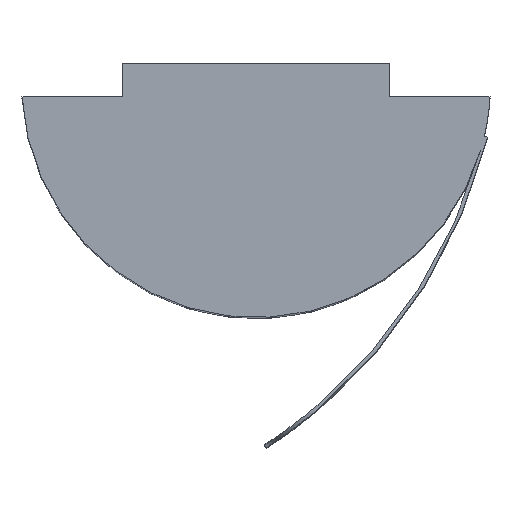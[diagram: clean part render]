
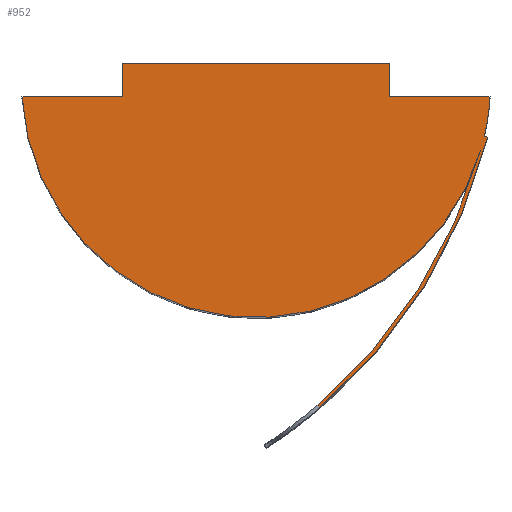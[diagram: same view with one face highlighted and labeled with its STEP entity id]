
A CAD part, top view. The second image highlights one B-rep face of the part: STEP entity #952.
In plain terms, the highlighted planar face has unit normal (0, 0, 1).
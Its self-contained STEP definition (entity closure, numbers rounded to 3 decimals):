
#178=CARTESIAN_POINT('',(-4.0,0.975,20.0));
#179=VERTEX_POINT('',#178);
#180=CARTESIAN_POINT('',(4.0,0.975,20.0));
#181=VERTEX_POINT('',#180);
#182=CARTESIAN_POINT('',(-4.0,0.975,20.0));
#183=DIRECTION('',(1.0,0.0,0.0));
#184=VECTOR('',#183,8.0);
#185=LINE('',#182,#184);
#186=EDGE_CURVE('',#179,#181,#185,.T.);
#360=CARTESIAN_POINT('',(1.857,-9.229,20.0));
#361=VERTEX_POINT('',#360);
#381=CARTESIAN_POINT('',(6.717,-1.624,20.0));
#382=VERTEX_POINT('',#381);
#383=CARTESIAN_POINT('',(-8.233,2.576,20.0));
#384=DIRECTION('',(0.0,0.0,-1.0));
#385=DIRECTION('',(-0.546,0.838,0.0));
#386=AXIS2_PLACEMENT_3D('',#383,#384,#385);
#387=CIRCLE('',#386,15.53);
#388=EDGE_CURVE('',#382,#361,#387,.T.);
#578=CARTESIAN_POINT('',(1.912,-9.314,20.0));
#579=VERTEX_POINT('',#578);
#599=CARTESIAN_POINT('',(1.912,-9.314,20.0));
#600=DIRECTION('',(-0.546,0.838,0.0));
#601=VECTOR('',#600,0.101);
#602=LINE('',#599,#601);
#603=EDGE_CURVE('',#579,#361,#602,.T.);
#685=CARTESIAN_POINT('',(6.927,-1.227,20.0));
#686=VERTEX_POINT('',#685);
#693=CARTESIAN_POINT('',(-8.233,2.576,20.0));
#694=DIRECTION('',(0.0,0.0,1.));
#695=DIRECTION('',(0.546,-0.838,0.0));
#696=AXIS2_PLACEMENT_3D('',#693,#694,#695);
#697=CIRCLE('',#696,15.63);
#698=EDGE_CURVE('',#579,#686,#697,.T.);
#722=CARTESIAN_POINT('',(6.83,-1.202,20.0));
#723=VERTEX_POINT('',#722);
#730=CARTESIAN_POINT('',(6.927,-1.227,20.0));
#731=DIRECTION('',(-0.97,0.243,0.0));
#732=VECTOR('',#731,0.1);
#733=LINE('',#730,#732);
#734=EDGE_CURVE('',#686,#723,#733,.T.);
#805=CARTESIAN_POINT('',(-7.,-0.025,20.0));
#806=VERTEX_POINT('',#805);
#807=CARTESIAN_POINT('',(0.0,0.387,20.0));
#808=DIRECTION('',(0.0,0.0,-1.));
#809=DIRECTION('',(-0.998,-0.059,0.0));
#810=AXIS2_PLACEMENT_3D('',#807,#808,#809);
#811=CIRCLE('',#810,7.012);
#812=EDGE_CURVE('',#382,#806,#811,.T.);
#834=CARTESIAN_POINT('',(7.,-0.025,20.0));
#835=VERTEX_POINT('',#834);
#842=CARTESIAN_POINT('',(0.0,0.387,20.0));
#843=DIRECTION('',(0.0,0.0,-1.));
#844=DIRECTION('',(-0.998,-0.059,0.0));
#845=AXIS2_PLACEMENT_3D('',#842,#843,#844);
#846=CIRCLE('',#845,7.012);
#847=EDGE_CURVE('',#835,#723,#846,.T.);
#857=CARTESIAN_POINT('',(4.0,-0.025,20.0));
#858=VERTEX_POINT('',#857);
#865=CARTESIAN_POINT('',(4.0,-0.025,20.0));
#866=DIRECTION('',(1.0,0.0,0.0));
#867=VECTOR('',#866,3.);
#868=LINE('',#865,#867);
#869=EDGE_CURVE('',#858,#835,#868,.T.);
#881=CARTESIAN_POINT('',(-4.0,-0.025,20.0));
#882=VERTEX_POINT('',#881);
#891=CARTESIAN_POINT('',(-7.,-0.025,20.0));
#892=DIRECTION('',(1.0,0.0,0.0));
#893=VECTOR('',#892,3.);
#894=LINE('',#891,#893);
#895=EDGE_CURVE('',#806,#882,#894,.T.);
#905=CARTESIAN_POINT('',(-4.0,-0.025,20.0));
#906=DIRECTION('',(0.0,1.0,0.0));
#907=VECTOR('',#906,1.);
#908=LINE('',#905,#907);
#909=EDGE_CURVE('',#882,#179,#908,.T.);
#922=CARTESIAN_POINT('',(4.0,0.975,20.0));
#923=DIRECTION('',(0.0,-1.0,0.0));
#924=VECTOR('',#923,1.);
#925=LINE('',#922,#924);
#926=EDGE_CURVE('',#181,#858,#925,.T.);
#934=CARTESIAN_POINT('',(0.0,0.475,20.0));
#935=DIRECTION('',(0.0,0.0,1.0));
#936=DIRECTION('',(1.0,0.0,0.0));
#937=AXIS2_PLACEMENT_3D('',#934,#935,#936);
#938=PLANE('',#937);
#939=ORIENTED_EDGE('',*,*,#603,.F.);
#940=ORIENTED_EDGE('',*,*,#698,.T.);
#941=ORIENTED_EDGE('',*,*,#734,.T.);
#942=ORIENTED_EDGE('',*,*,#847,.F.);
#943=ORIENTED_EDGE('',*,*,#869,.F.);
#944=ORIENTED_EDGE('',*,*,#926,.F.);
#945=ORIENTED_EDGE('',*,*,#186,.F.);
#946=ORIENTED_EDGE('',*,*,#909,.F.);
#947=ORIENTED_EDGE('',*,*,#895,.F.);
#948=ORIENTED_EDGE('',*,*,#812,.F.);
#949=ORIENTED_EDGE('',*,*,#388,.T.);
#950=EDGE_LOOP('',(#939,#940,#941,#942,#943,#944,#945,#946,#947,#948,#949));
#951=FACE_OUTER_BOUND('',#950,.T.);
#952=ADVANCED_FACE('',(#951),#938,.T.);
